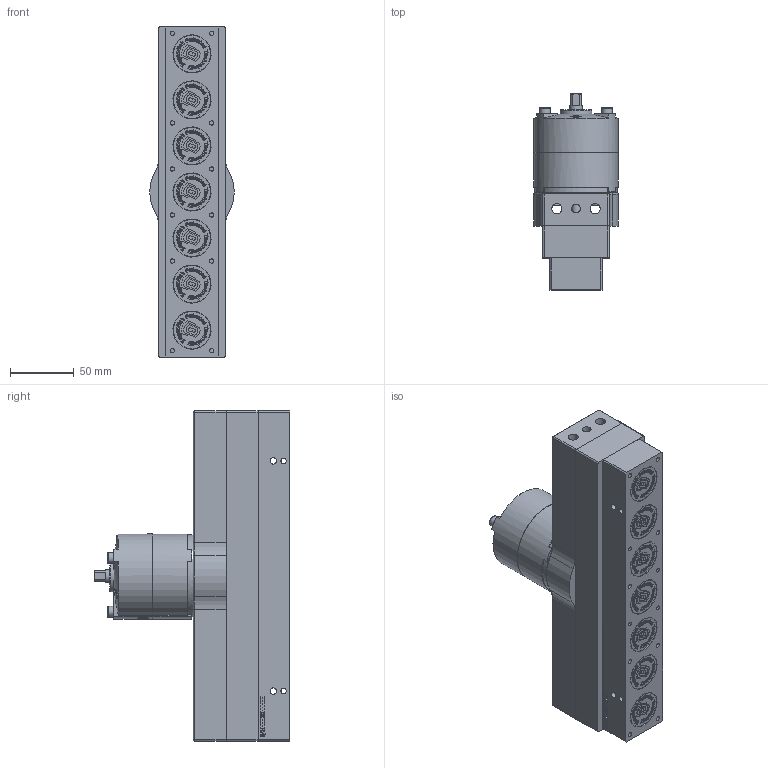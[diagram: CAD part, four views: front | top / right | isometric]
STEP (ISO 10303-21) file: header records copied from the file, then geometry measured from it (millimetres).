
FILE_DESCRIPTION (( 'STEP AP214' ), '1' );
FILE_NAME ('80001193.STEP', '2022-09-26T17:59:34', ( '' ), ( '' ), 'SwSTEP 2.0', 'SolidWorks 2018', '' );
FILE_SCHEMA (( 'AUTOMOTIVE_DESIGN' ));
Length unit declared in the file: millimetre
Products named in the file (2): 80001193
Bounding box: 66 x 153.3 x 258.2 mm (x, y, z)
Surface area: 103136.4 mm2 (no closed solid volume)
Topology: 0 solids, 81 shells, 1594 faces, 9368 edges, 7524 vertices
Faces by surface type: plane 990, bspline 438, cylinder 136, torus 14, cone 12, sphere 4
Full cylindrical faces by diameter (mm): 3.3 x12, 4.134 x2, 4.2 x4, 5 x4, 6.8 x4, 6.95 x3, 8 x8, 8.3 x2, 8.5 x3, 9 x8, 9.75 x1, 25 x1, 29 x7
Entity records: 154377 total; most frequent: CARTESIAN_POINT 76111, ORIENTED_EDGE 11990, EDGE_CURVE 9280, DIRECTION 8345, VERTEX_POINT 7513, VECTOR 5243, LINE 5243, B_SPLINE_CURVE_WITH_KNOTS 3644
